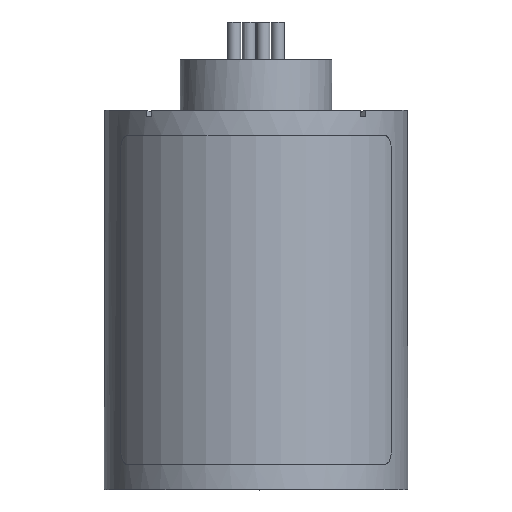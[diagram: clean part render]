
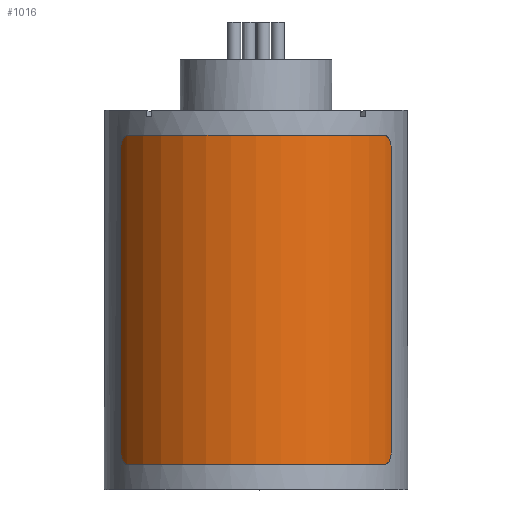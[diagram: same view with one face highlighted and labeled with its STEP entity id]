
A CAD part, top view. The second image highlights one B-rep face of the part: STEP entity #1016.
In plain terms, the highlighted cylindrical face has radius 12.1 mm (diameter 24.2 mm), a partial arc.
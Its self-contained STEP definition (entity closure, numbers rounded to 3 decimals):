
#297=FACE_OUTER_BOUND('',#1415,.T.);
#422=B_SPLINE_CURVE_WITH_KNOTS('',3,(#5143,#5144,#5145,#5146,#5147,#5148,
#5149,#5150,#5151,#5152,#5153,#5154,#5155,#5156,#5157,#5158),
 .UNSPECIFIED.,.F.,.F.,(4,3,3,3,3,4),(0.,0.215,0.429,
0.644,0.858,1.),.UNSPECIFIED.);
#423=B_SPLINE_CURVE_WITH_KNOTS('',3,(#5159,#5160,#5161,#5162,#5163,#5164,
#5165,#5166,#5167,#5168,#5169,#5170,#5171,#5172,#5173,#5174),
 .UNSPECIFIED.,.F.,.F.,(4,3,3,3,3,4),(0.,0.215,0.43,
0.644,0.859,1.),.UNSPECIFIED.);
#424=B_SPLINE_CURVE_WITH_KNOTS('',3,(#5178,#5179,#5180,#5181,#5182,#5183,
#5184,#5185,#5186,#5187,#5188,#5189,#5190,#5191,#5192,#5193),
 .UNSPECIFIED.,.F.,.F.,(4,3,3,3,3,4),(0.,0.215,0.429,
0.644,0.858,1.),.UNSPECIFIED.);
#425=B_SPLINE_CURVE_WITH_KNOTS('',3,(#5197,#5198,#5199,#5200,#5201,#5202,
#5203,#5204,#5205,#5206,#5207,#5208,#5209,#5210,#5211,#5212),
 .UNSPECIFIED.,.F.,.F.,(4,3,3,3,3,4),(0.,0.215,0.43,
0.644,0.859,1.),.UNSPECIFIED.);
#497=LINE('',#5134,#736);
#500=LINE('',#5195,#739);
#736=VECTOR('',#3955,1.);
#739=VECTOR('',#3964,1.);
#918=CYLINDRICAL_SURFACE('',#3412,12.1);
#1016=ADVANCED_FACE('',(#297),#918,.T.);
#1415=EDGE_LOOP('',(#1852,#1853,#1854,#1855,#1856,#1857,#1858,#1859));
#1852=ORIENTED_EDGE('',*,*,#2900,.F.);
#1853=ORIENTED_EDGE('',*,*,#2901,.T.);
#1854=ORIENTED_EDGE('',*,*,#2897,.F.);
#1855=ORIENTED_EDGE('',*,*,#2902,.T.);
#1856=ORIENTED_EDGE('',*,*,#2903,.T.);
#1857=ORIENTED_EDGE('',*,*,#2904,.T.);
#1858=ORIENTED_EDGE('',*,*,#2905,.T.);
#1859=ORIENTED_EDGE('',*,*,#2906,.T.);
#2545=VERTEX_POINT('',#5135);
#2546=VERTEX_POINT('',#5136);
#2547=VERTEX_POINT('',#5141);
#2548=VERTEX_POINT('',#5142);
#2549=VERTEX_POINT('',#5175);
#2550=VERTEX_POINT('',#5177);
#2551=VERTEX_POINT('',#5194);
#2552=VERTEX_POINT('',#5196);
#2897=EDGE_CURVE('',#2545,#2546,#497,.T.);
#2900=EDGE_CURVE('',#2547,#2548,#3242,.T.);
#2901=EDGE_CURVE('',#2547,#2546,#422,.T.);
#2902=EDGE_CURVE('',#2545,#2549,#423,.T.);
#2903=EDGE_CURVE('',#2549,#2550,#3243,.T.);
#2904=EDGE_CURVE('',#2550,#2551,#424,.T.);
#2905=EDGE_CURVE('',#2551,#2552,#500,.T.);
#2906=EDGE_CURVE('',#2552,#2548,#425,.T.);
#3242=CIRCLE('',#3410,12.1);
#3243=CIRCLE('',#3411,12.1);
#3410=AXIS2_PLACEMENT_3D('',#5140,#3960,#3961);
#3411=AXIS2_PLACEMENT_3D('',#5176,#3962,#3963);
#3412=AXIS2_PLACEMENT_3D('',#5213,#3965,#3966);
#3955=DIRECTION('',(0.,-1.,0.));
#3960=DIRECTION('',(0.,-1.,0.));
#3961=DIRECTION('',(-1.,0.,0.));
#3962=DIRECTION('',(0.,-1.,0.));
#3963=DIRECTION('',(-1.,0.,0.));
#3964=DIRECTION('',(0.,-1.,0.));
#3965=DIRECTION('',(0.,-1.,0.));
#3966=DIRECTION('',(-1.,0.,0.));
#5134=CARTESIAN_POINT('',(10.691,28.,5.667));
#5135=CARTESIAN_POINT('',(10.691,27.,5.667));
#5136=CARTESIAN_POINT('',(10.691,3.,5.667));
#5140=CARTESIAN_POINT('',(0.,2.,0.));
#5141=CARTESIAN_POINT('',(10.186,2.,6.532));
#5142=CARTESIAN_POINT('',(-10.186,2.,6.532));
#5143=CARTESIAN_POINT('',(10.186,2.,6.532));
#5144=CARTESIAN_POINT('',(10.246,2.,6.437));
#5145=CARTESIAN_POINT('',(10.306,2.019,6.341));
#5146=CARTESIAN_POINT('',(10.361,2.056,6.251));
#5147=CARTESIAN_POINT('',(10.415,2.093,6.16));
#5148=CARTESIAN_POINT('',(10.466,2.149,6.073));
#5149=CARTESIAN_POINT('',(10.509,2.218,5.997));
#5150=CARTESIAN_POINT('',(10.553,2.288,5.921));
#5151=CARTESIAN_POINT('',(10.59,2.374,5.854));
#5152=CARTESIAN_POINT('',(10.618,2.468,5.802));
#5153=CARTESIAN_POINT('',(10.647,2.563,5.75));
#5154=CARTESIAN_POINT('',(10.667,2.669,5.711));
#5155=CARTESIAN_POINT('',(10.679,2.778,5.689));
#5156=CARTESIAN_POINT('',(10.687,2.851,5.675));
#5157=CARTESIAN_POINT('',(10.691,2.926,5.667));
#5158=CARTESIAN_POINT('',(10.691,3.,5.667));
#5159=CARTESIAN_POINT('',(10.691,27.,5.667));
#5160=CARTESIAN_POINT('',(10.691,27.112,5.667));
#5161=CARTESIAN_POINT('',(10.682,27.225,5.685));
#5162=CARTESIAN_POINT('',(10.664,27.331,5.717));
#5163=CARTESIAN_POINT('',(10.647,27.437,5.75));
#5164=CARTESIAN_POINT('',(10.62,27.537,5.799));
#5165=CARTESIAN_POINT('',(10.586,27.625,5.86));
#5166=CARTESIAN_POINT('',(10.552,27.712,5.921));
#5167=CARTESIAN_POINT('',(10.51,27.789,5.996));
#5168=CARTESIAN_POINT('',(10.463,27.848,6.078));
#5169=CARTESIAN_POINT('',(10.415,27.907,6.16));
#5170=CARTESIAN_POINT('',(10.361,27.951,6.251));
#5171=CARTESIAN_POINT('',(10.303,27.975,6.344));
#5172=CARTESIAN_POINT('',(10.265,27.992,6.406));
#5173=CARTESIAN_POINT('',(10.226,28.,6.469));
#5174=CARTESIAN_POINT('',(10.186,28.,6.532));
#5175=CARTESIAN_POINT('',(10.186,28.,6.532));
#5176=CARTESIAN_POINT('',(0.,28.,0.));
#5177=CARTESIAN_POINT('',(-10.186,28.,6.532));
#5178=CARTESIAN_POINT('',(-10.186,28.,6.532));
#5179=CARTESIAN_POINT('',(-10.246,28.,6.437));
#5180=CARTESIAN_POINT('',(-10.306,27.981,6.341));
#5181=CARTESIAN_POINT('',(-10.361,27.944,6.251));
#5182=CARTESIAN_POINT('',(-10.415,27.907,6.16));
#5183=CARTESIAN_POINT('',(-10.466,27.851,6.073));
#5184=CARTESIAN_POINT('',(-10.509,27.782,5.997));
#5185=CARTESIAN_POINT('',(-10.553,27.712,5.921));
#5186=CARTESIAN_POINT('',(-10.59,27.626,5.854));
#5187=CARTESIAN_POINT('',(-10.618,27.532,5.802));
#5188=CARTESIAN_POINT('',(-10.647,27.437,5.75));
#5189=CARTESIAN_POINT('',(-10.667,27.331,5.711));
#5190=CARTESIAN_POINT('',(-10.679,27.222,5.689));
#5191=CARTESIAN_POINT('',(-10.687,27.149,5.675));
#5192=CARTESIAN_POINT('',(-10.691,27.074,5.667));
#5193=CARTESIAN_POINT('',(-10.691,27.,5.667));
#5194=CARTESIAN_POINT('',(-10.691,27.,5.667));
#5195=CARTESIAN_POINT('',(-10.691,28.,5.667));
#5196=CARTESIAN_POINT('',(-10.691,3.,5.667));
#5197=CARTESIAN_POINT('',(-10.691,3.,5.667));
#5198=CARTESIAN_POINT('',(-10.691,2.888,5.667));
#5199=CARTESIAN_POINT('',(-10.682,2.775,5.685));
#5200=CARTESIAN_POINT('',(-10.664,2.669,5.717));
#5201=CARTESIAN_POINT('',(-10.647,2.563,5.75));
#5202=CARTESIAN_POINT('',(-10.62,2.463,5.799));
#5203=CARTESIAN_POINT('',(-10.586,2.375,5.86));
#5204=CARTESIAN_POINT('',(-10.552,2.288,5.921));
#5205=CARTESIAN_POINT('',(-10.51,2.211,5.996));
#5206=CARTESIAN_POINT('',(-10.463,2.152,6.078));
#5207=CARTESIAN_POINT('',(-10.415,2.093,6.16));
#5208=CARTESIAN_POINT('',(-10.361,2.049,6.251));
#5209=CARTESIAN_POINT('',(-10.303,2.025,6.344));
#5210=CARTESIAN_POINT('',(-10.265,2.008,6.406));
#5211=CARTESIAN_POINT('',(-10.226,2.,6.469));
#5212=CARTESIAN_POINT('',(-10.186,2.,6.532));
#5213=CARTESIAN_POINT('',(0.,28.,0.));
